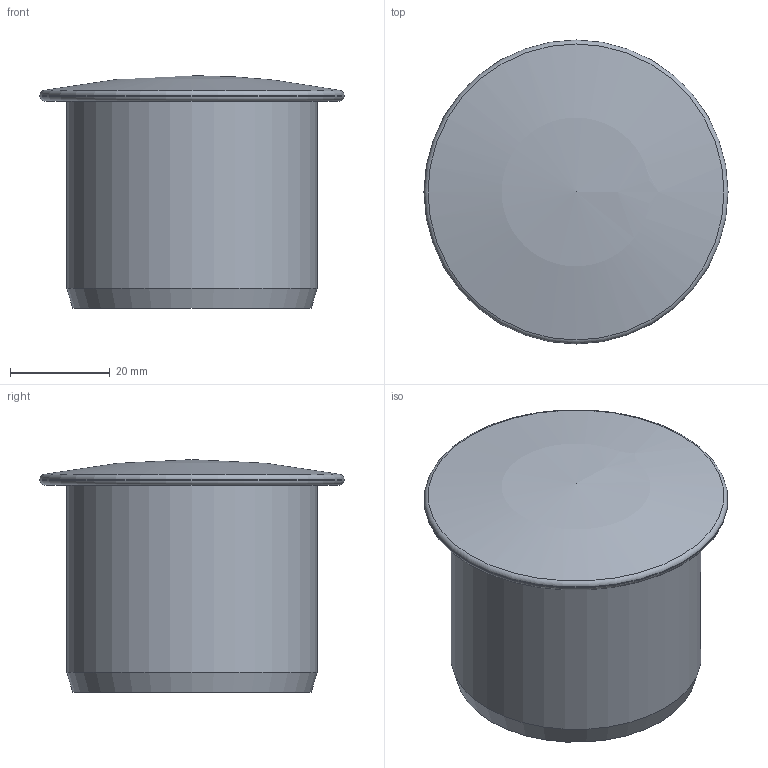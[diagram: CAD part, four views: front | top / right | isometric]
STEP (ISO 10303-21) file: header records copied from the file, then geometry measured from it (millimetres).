
FILE_DESCRIPTION(/* description */ (''),/* implementation_level */ '2;1');
FILE_NAME(/* name */ 'H:\Geberit-Teile\Export\Muffenstopfen ART\stp\390228.stp',/* time_stamp */ '2014-04-16T16:40:13+02:00',/* author */ ('seihe2'),/* organization */ (''),/* preprocessor_version */ 'ST-DEVELOPER v15.2',/* originating_system */ 'Autodesk Inventor 2014',/* authorisation */ '');
FILE_SCHEMA (('AUTOMOTIVE_DESIGN { 1 0 10303 214 3 1 1 }'));
Length unit declared in the file: millimetre
Products named in the file (1): 390228
Bounding box: 60.9 x 60.9 x 46.6 mm (x, y, z)
Volume: 18782.2 mm3; surface area: 18684.6 mm2
Topology: 1 solids, 1 shells, 10 faces, 21 edges, 13 vertices
Faces by surface type: cylinder 3, sphere 2, torus 2, plane 2, cone 1
Full cylindrical faces by diameter (mm): 46.15 x1, 50.15 x1, 60.9 x1
Entity records: 225 total; most frequent: DIRECTION 40, CARTESIAN_POINT 29, AXIS2_PLACEMENT_3D 20, EDGE_LOOP 18, ORIENTED_EDGE 18, STYLED_ITEM 11, FACE_OUTER_BOUND 10, ADVANCED_FACE 10
